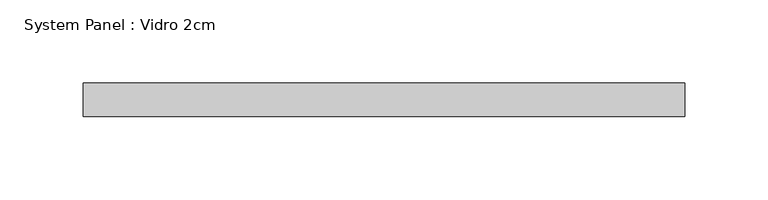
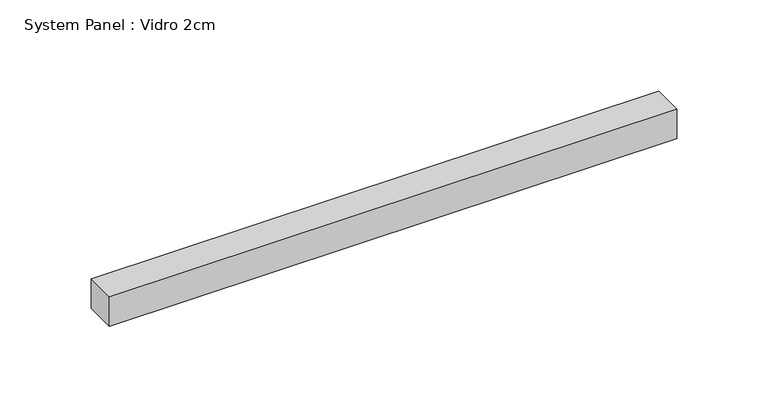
"""IFC4 building model written with IfcOpenShell, lengths in millimetres: plate geometry, System Panel : Vidro 2cm."""

from ifc_helpers import new_model, si_unit, origin, origin_with_axes, place, context, project, spatial, polyline, outline, extrude, source, transform, mapped, element, save


def system_panel_vidro_2cm_d7178376(model_context):
    return source(origin(), model_context, "Body", "SweptSolid", [
        extrude(outline(polyline([(179.9999998, -20.0), (-179.9999998, -20.0), (-179.9999998, 0.0), (179.9999998, 0.0), (179.9999998, -20.0)])), origin_with_axes(), (0.0, 0.0, 1.0), 20.0),
    ])


if __name__ == "__main__":
    model = new_model("IFC4")
    model_context = context("Model", 3, world=origin())
    ifc_project = project(units=[si_unit("LENGTHUNIT", "METRE", prefix="MILLI")], contexts=[model_context])
    site = spatial("IfcSite", under=ifc_project)
    building = spatial("IfcBuilding", under=site)
    placement = place(None, origin())
    system_panel_vidro_2cm_shape = system_panel_vidro_2cm_d7178376(model_context)
    element("IfcPlate", 1, ObjectType="System Panel : Vidro 2cm", at=placement, inside=building, context=model_context, shape_type="MappedRepresentation", body=[
        mapped(system_panel_vidro_2cm_shape, transform((0.0, 0.0, 0.0), x_axis=(1.0, 0.0, 0.0), y_axis=(0.0, 1.0, 0.0), z_axis=(0.0, 0.0, 1.0))),
    ])
    save(model, "model.ifc")
